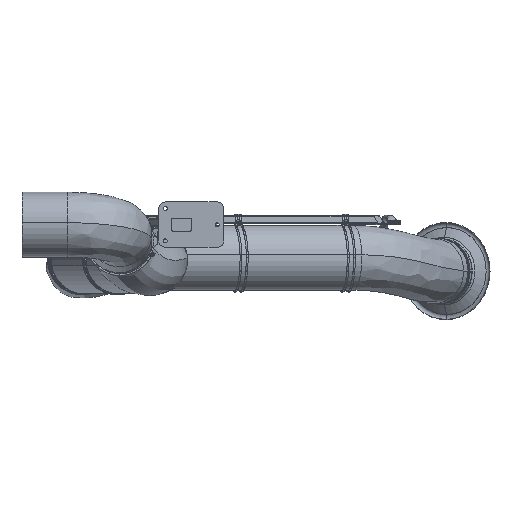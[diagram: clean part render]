
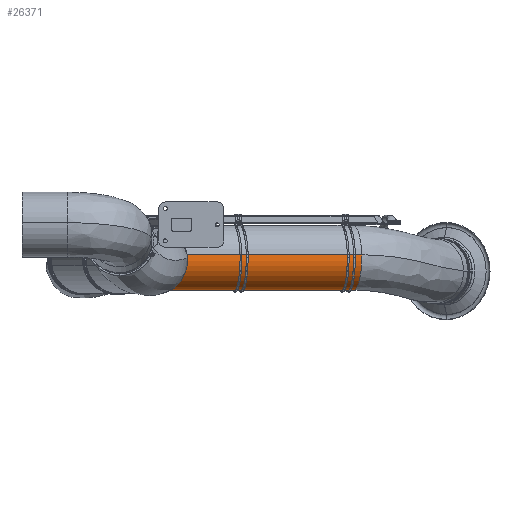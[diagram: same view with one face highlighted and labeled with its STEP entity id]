
A CAD part, left-side view. The second image highlights one B-rep face of the part: STEP entity #26371.
In plain terms, the highlighted free-form (B-spline) face has degree [3, 3] with [7, 6] control points.
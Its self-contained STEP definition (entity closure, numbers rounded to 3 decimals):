
#25051=CARTESIAN_POINT('',(1384.284,-529.773,-102.));
#25052=DIRECTION('',(-0.259,0.966,0.));
#25053=DIRECTION('',(0.962,0.258,-0.088));
#25054=AXIS2_PLACEMENT_3D('',#25051,#25052,#25053);
#25059=CARTESIAN_POINT('',(1480.498,-503.992,
-110.839));
#25060=CARTESIAN_POINT('',(1460.08,-427.791,
-110.839));
#25061=CARTESIAN_POINT('',(1419.244,-275.39,
-110.839));
#25062=CARTESIAN_POINT('',(1357.99,-46.787,
-110.839));
#25063=CARTESIAN_POINT('',(1317.155,105.615,
-110.839));
#25064=CARTESIAN_POINT('',(1296.737,181.815,
-110.839));
#25077=CARTESIAN_POINT('',(1288.069,-555.553,
-93.161));
#25078=CARTESIAN_POINT('',(1267.651,-479.352,
-93.161));
#25079=CARTESIAN_POINT('',(1226.815,-326.951,
-93.161));
#25080=CARTESIAN_POINT('',(1165.561,-98.348,
-93.161));
#25081=CARTESIAN_POINT('',(1124.725,54.053,
-93.161));
#25082=CARTESIAN_POINT('',(1104.308,130.254,
-93.161));
#25327=CARTESIAN_POINT('',(1200.522,156.035,-102.));
#25328=DIRECTION('',(-0.259,0.966,0.));
#25329=DIRECTION('',(0.962,0.258,-0.088));
#25330=AXIS2_PLACEMENT_3D('',#25327,#25328,#25329);
#25864=CARTESIAN_POINT('',(1480.498,-503.992,
-110.839));
#25865=CARTESIAN_POINT('',(1288.069,-555.553,
-93.161));
#25866=VERTEX_POINT('',#25864);
#25867=VERTEX_POINT('',#25865);
#25868=CARTESIAN_POINT('',(1296.737,181.815,
-110.839));
#25869=CARTESIAN_POINT('',(1104.308,130.254,
-93.161));
#25870=VERTEX_POINT('',#25868);
#25871=VERTEX_POINT('',#25869);
#26319=CARTESIAN_POINT('',(1484.52,-517.615,
-104.567));
#26320=CARTESIAN_POINT('',(1483.294,-513.043,
-104.567));
#26321=CARTESIAN_POINT('',(1420.816,-279.869,
-104.567));
#26322=CARTESIAN_POINT('',(1357.112,-42.122,
-104.567));
#26323=CARTESIAN_POINT('',(1294.633,191.052,
-104.567));
#26324=CARTESIAN_POINT('',(1293.408,195.624,
-104.567));
#26325=CARTESIAN_POINT('',(1482.994,-518.024,
-166.087));
#26326=CARTESIAN_POINT('',(1481.769,-513.452,
-166.087));
#26327=CARTESIAN_POINT('',(1419.29,-280.278,
-166.087));
#26328=CARTESIAN_POINT('',(1355.586,-42.531,
-166.087));
#26329=CARTESIAN_POINT('',(1293.107,190.643,
-166.087));
#26330=CARTESIAN_POINT('',(1291.882,195.215,
-166.087));
#26331=CARTESIAN_POINT('',(1438.631,-529.911,
-207.048));
#26332=CARTESIAN_POINT('',(1437.406,-525.339,
-207.048));
#26333=CARTESIAN_POINT('',(1374.927,-292.165,
-207.048));
#26334=CARTESIAN_POINT('',(1311.223,-54.418,
-207.048));
#26335=CARTESIAN_POINT('',(1248.744,178.756,
-207.048));
#26336=CARTESIAN_POINT('',(1247.519,183.329,
-207.048));
#26337=CARTESIAN_POINT('',(1379.421,-545.776,
-201.609));
#26338=CARTESIAN_POINT('',(1378.196,-541.204,
-201.609));
#26339=CARTESIAN_POINT('',(1315.717,-308.03,
-201.609));
#26340=CARTESIAN_POINT('',(1252.013,-70.283,
-201.609));
#26341=CARTESIAN_POINT('',(1189.534,162.891,
-201.609));
#26342=CARTESIAN_POINT('',(1188.309,167.463,
-201.609));
#26343=CARTESIAN_POINT('',(1320.211,-561.642,
-196.169));
#26344=CARTESIAN_POINT('',(1318.986,-557.07,
-196.169));
#26345=CARTESIAN_POINT('',(1256.507,-323.895,
-196.169));
#26346=CARTESIAN_POINT('',(1192.803,-86.149,
-196.169));
#26347=CARTESIAN_POINT('',(1130.324,147.026,
-196.169));
#26348=CARTESIAN_POINT('',(1129.099,151.598,
-196.169));
#26349=CARTESIAN_POINT('',(1283.509,-571.476,
-147.761));
#26350=CARTESIAN_POINT('',(1282.284,-566.904,
-147.761));
#26351=CARTESIAN_POINT('',(1219.805,-333.73,
-147.761));
#26352=CARTESIAN_POINT('',(1156.101,-95.983,
-147.761));
#26353=CARTESIAN_POINT('',(1093.622,137.191,
-147.761));
#26354=CARTESIAN_POINT('',(1092.397,141.764,
-147.761));
#26355=CARTESIAN_POINT('',(1292.47,-569.075,
-86.924));
#26356=CARTESIAN_POINT('',(1291.245,-564.503,
-86.924));
#26357=CARTESIAN_POINT('',(1228.766,-331.328,
-86.924));
#26358=CARTESIAN_POINT('',(1165.062,-93.582,
-86.924));
#26359=CARTESIAN_POINT('',(1102.583,139.593,
-86.924));
#26360=CARTESIAN_POINT('',(1101.358,144.165,
-86.924));
#26361=(BOUNDED_SURFACE()B_SPLINE_SURFACE(3,3,((#26319,#26320,#26321,#26322,
#26323,#26324),(#26325,#26326,#26327,#26328,#26329,#26330),(#26331,#26332,
#26333,#26334,#26335,#26336),(#26337,#26338,#26339,#26340,#26341,#26342),
(#26343,#26344,#26345,#26346,#26347,#26348),(#26349,#26350,#26351,#26352,#26353,
#26354),(#26355,#26356,#26357,#26358,#26359,#26360)),.UNSPECIFIED.,.F.,.F.,.F.)B_SPLINE_SURFACE_WITH_KNOTS((4,3,4),(4,1,1,4),(0.,1.,2.),(-0.02,0.,1.,
1.02),.UNSPECIFIED.)GEOMETRIC_REPRESENTATION_ITEM()RATIONAL_B_SPLINE_SURFACE((
(1.187,1.187,1.187,1.187,
1.187,1.187),(0.938,0.938,
0.938,0.938,0.938,0.938),(
0.938,0.938,0.938,0.938,
0.938,0.938),(1.187,1.187,
1.187,1.187,1.187,1.187),(
0.938,0.938,0.938,0.938,
0.938,0.938),(0.938,0.938,
0.938,0.938,0.938,0.938),(
1.187,1.187,1.187,1.187,
1.187,1.187)))REPRESENTATION_ITEM('')SURFACE());
#26362=ORIENTED_EDGE('',*,*,#26306,.F.);
#26364=ORIENTED_EDGE('',*,*,#26363,.T.);
#26366=ORIENTED_EDGE('',*,*,#26365,.T.);
#26368=ORIENTED_EDGE('',*,*,#26367,.F.);
#26369=EDGE_LOOP('',(#26362,#26364,#26366,#26368));
#26370=FACE_OUTER_BOUND('',#26369,.F.);
#25055=CIRCLE('',#25054,100.);
#25065=B_SPLINE_CURVE_WITH_KNOTS('',3,(#25059,#25060,#25061,#25062,#25063,
#25064),.UNSPECIFIED.,.F.,.F.,(4,1,1,4),(0.,0.333,
0.667,1.),.UNSPECIFIED.);
#25083=B_SPLINE_CURVE_WITH_KNOTS('',3,(#25077,#25078,#25079,#25080,#25081,
#25082),.UNSPECIFIED.,.F.,.F.,(4,1,1,4),(0.,0.333,
0.667,1.),.UNSPECIFIED.);
#25331=CIRCLE('',#25330,100.);
#26306=EDGE_CURVE('',#25866,#25867,#25055,.T.);
#26363=EDGE_CURVE('',#25866,#25870,#25065,.T.);
#26365=EDGE_CURVE('',#25870,#25871,#25331,.T.);
#26367=EDGE_CURVE('',#25867,#25871,#25083,.T.);
#26371=ADVANCED_FACE('',(#26370),#26361,.T.);
